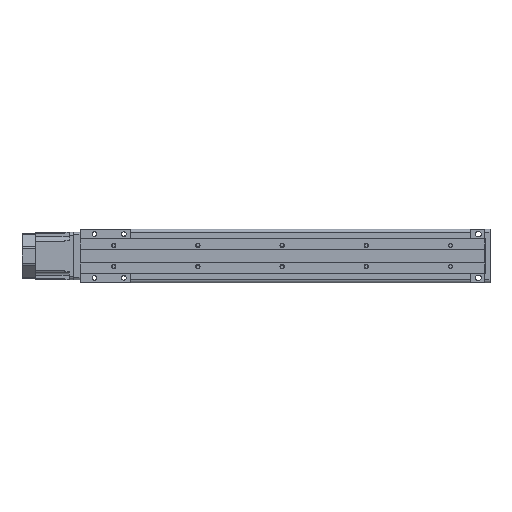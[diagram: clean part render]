
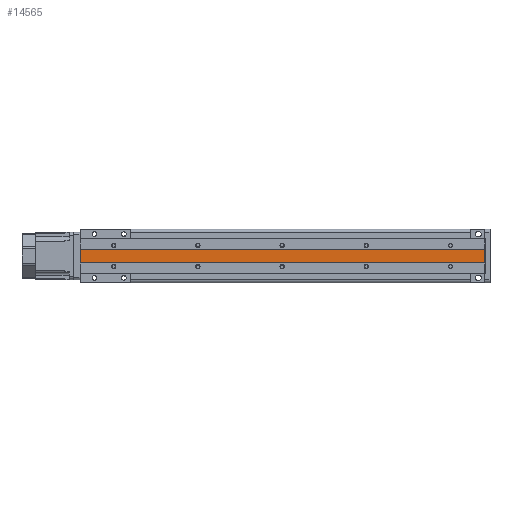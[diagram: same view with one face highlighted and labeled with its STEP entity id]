
A CAD part, front view. The second image highlights one B-rep face of the part: STEP entity #14565.
In plain terms, the highlighted planar face has unit normal (0, -1, 0).
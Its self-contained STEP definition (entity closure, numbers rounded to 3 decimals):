
#610=PLANE('',#24147);
#2064=VERTEX_POINT('',#20323);
#2065=VERTEX_POINT('',#20325);
#2066=VERTEX_POINT('',#20329);
#2067=VERTEX_POINT('',#20331);
#3319=VECTOR('',#16288,1.);
#3321=VECTOR('',#16291,1.);
#3322=VECTOR('',#16292,1.);
#3323=VECTOR('',#16293,1.);
#4853=LINE('',#20324,#3319);
#4855=LINE('',#20328,#3321);
#4856=LINE('',#20330,#3322);
#4857=LINE('',#20332,#3323);
#6584=EDGE_CURVE('',#2065,#2064,#4853,.T.);
#6586=EDGE_CURVE('',#2064,#2066,#4855,.T.);
#6587=EDGE_CURVE('',#2067,#2066,#4856,.T.);
#6588=EDGE_CURVE('',#2067,#2065,#4857,.T.);
#8895=ORIENTED_EDGE('',*,*,#6586,.T.);
#8896=ORIENTED_EDGE('',*,*,#6587,.F.);
#8897=ORIENTED_EDGE('',*,*,#6588,.T.);
#8898=ORIENTED_EDGE('',*,*,#6584,.T.);
#12692=EDGE_LOOP('',(#8895,#8896,#8897,#8898));
#13635=FACE_BOUND('',#12692,.T.);
#14565=ADVANCED_FACE('',(#13635),#610,.T.);
#16288=DIRECTION('',(1.,0.,0.));
#16290=DIRECTION('',(0.,-1.,0.));
#16291=DIRECTION('',(0.,0.,1.));
#16292=DIRECTION('',(1.,0.,0.));
#16293=DIRECTION('',(0.,0.,-1.));
#20323=CARTESIAN_POINT('',(429.,0.3,-8.));
#20324=CARTESIAN_POINT('',(-52.,0.3,-8.));
#20325=CARTESIAN_POINT('',(-52.,0.3,-8.));
#20327=CARTESIAN_POINT('',(-52.,0.3,-8.));
#20328=CARTESIAN_POINT('',(429.,0.3,7.7));
#20329=CARTESIAN_POINT('',(429.,0.3,7.7));
#20330=CARTESIAN_POINT('',(-52.,0.3,7.7));
#20331=CARTESIAN_POINT('',(-52.,0.3,7.7));
#20332=CARTESIAN_POINT('',(-52.,0.3,7.7));
#24147=AXIS2_PLACEMENT_3D('',#20327,#16290,$);
